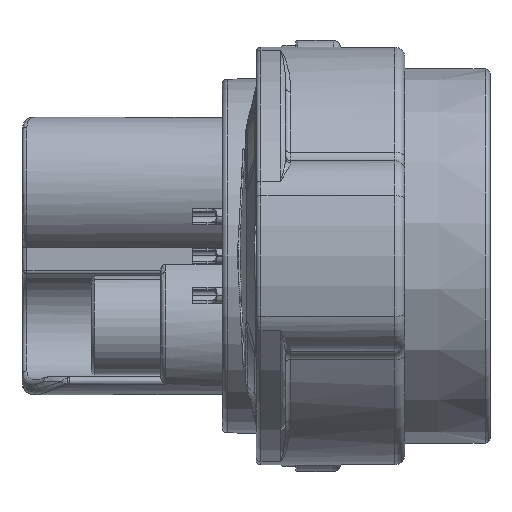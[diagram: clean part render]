
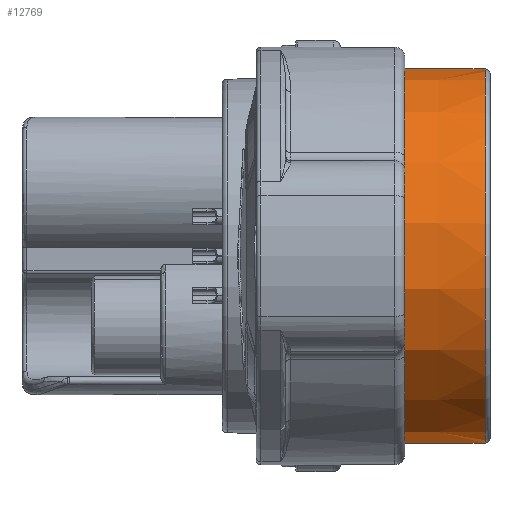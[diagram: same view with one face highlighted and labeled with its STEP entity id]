
A CAD part, front view. The second image highlights one B-rep face of the part: STEP entity #12769.
In plain terms, the highlighted conical face has half-angle 0.3 degrees and reference radius 18.95 mm.
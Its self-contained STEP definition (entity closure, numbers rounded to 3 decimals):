
#263 = CARTESIAN_POINT ( 'NONE',  ( 9.381, -14.36, 12.361 ) ) ;
#1081 = CARTESIAN_POINT ( 'NONE',  ( 8.884, 0., -18.95 ) ) ;
#1488 = DIRECTION ( 'NONE',  ( -1., 0., 0. ) ) ;
#2219 = EDGE_CURVE ( 'NONE', #82083, #66448, #11611, .T. ) ;
#2372 = CIRCLE ( 'NONE', #32395, 18.947 ) ;
#3281 = AXIS2_PLACEMENT_3D ( 'NONE', #55806, #1488, #75412 ) ;
#3339 = CIRCLE ( 'NONE', #46160, 18.947 ) ;
#3413 = EDGE_CURVE ( 'NONE', #57986, #73573, #53840, .T. ) ;
#3592 = FACE_OUTER_BOUND ( 'NONE', #73208, .T. ) ;
#6202 = DIRECTION ( 'NONE',  ( -1., 0., 0.005 ) ) ;
#8143 = ORIENTED_EDGE ( 'NONE', *, *, #63873, .F. ) ;
#9823 = CARTESIAN_POINT ( 'NONE',  ( 9.296, -13.061, -13.729 ) ) ;
#11193 = DIRECTION ( 'NONE',  ( 1., 0., 0. ) ) ;
#11611 = CIRCLE ( 'NONE', #75667, 18.947 ) ;
#11613 = CARTESIAN_POINT ( 'NONE',  ( 9.381, 0., 0. ) ) ;
#12539 = VERTEX_POINT ( 'NONE', #67793 ) ;
#12769 = ADVANCED_FACE ( 'NONE', ( #3592 ), #65892, .T. ) ;
#13059 = ORIENTED_EDGE ( 'NONE', *, *, #2219, .T. ) ;
#15039 = CARTESIAN_POINT ( 'NONE',  ( 9.381, -14.36, 12.361 ) ) ;
#16924 = CARTESIAN_POINT ( 'NONE',  ( 8.884, 0., 0. ) ) ;
#19533 = CARTESIAN_POINT ( 'NONE',  ( 8.884, 0., 18.95 ) ) ;
#20096 = VERTEX_POINT ( 'NONE', #51067 ) ;
#20896 = ORIENTED_EDGE ( 'NONE', *, *, #75475, .T. ) ;
#22682 = B_SPLINE_CURVE_WITH_KNOTS ( 'NONE', 3,
 ( #57469, #84643, #50781, #64615, #70418, #36069, #9823, #49472, #29400, #77989 ),
 .UNSPECIFIED., .F., .F.,
 ( 4, 2, 2, 2, 4 ),
 ( 0., 0.001, 0.001, 0.002, 0.003 ),
 .UNSPECIFIED. ) ;
#27712 = EDGE_CURVE ( 'NONE', #20096, #82083, #81374, .T. ) ;
#28222 = CARTESIAN_POINT ( 'NONE',  ( 9.381, 0., 0. ) ) ;
#29400 = CARTESIAN_POINT ( 'NONE',  ( 9.381, -12.54, -14.206 ) ) ;
#29705 = CARTESIAN_POINT ( 'NONE',  ( 9.271, -13.565, 13.231 ) ) ;
#32395 = AXIS2_PLACEMENT_3D ( 'NONE', #28222, #68787, #34877 ) ;
#34877 = DIRECTION ( 'NONE',  ( 0., 0., 1. ) ) ;
#36069 = CARTESIAN_POINT ( 'NONE',  ( 9.271, -13.231, -13.565 ) ) ;
#36376 = CARTESIAN_POINT ( 'NONE',  ( 9.296, -13.062, 13.728 ) ) ;
#37005 = DIRECTION ( 'NONE',  ( 0., 0., 1. ) ) ;
#38627 = DIRECTION ( 'NONE',  ( 1., 0., 0. ) ) ;
#40194 = VECTOR ( 'NONE', #6202, 1000. ) ;
#40607 = ORIENTED_EDGE ( 'NONE', *, *, #65196, .T. ) ;
#41740 = CARTESIAN_POINT ( 'NONE',  ( 9.352, -12.716, 14.049 ) ) ;
#43056 = AXIS2_PLACEMENT_3D ( 'NONE', #16924, #57915, #44069 ) ;
#44069 = DIRECTION ( 'NONE',  ( 0., 0., -1. ) ) ;
#46160 = AXIS2_PLACEMENT_3D ( 'NONE', #72514, #38627, #85873 ) ;
#46567 = CARTESIAN_POINT ( 'NONE',  ( 9.381, 0., -18.947 ) ) ;
#48726 = ORIENTED_EDGE ( 'NONE', *, *, #55441, .T. ) ;
#49472 = CARTESIAN_POINT ( 'NONE',  ( 9.352, -12.716, -14.049 ) ) ;
#50781 = CARTESIAN_POINT ( 'NONE',  ( 9.352, -14.049, -12.716 ) ) ;
#51067 = CARTESIAN_POINT ( 'NONE',  ( 9.381, -12.361, 14.36 ) ) ;
#52093 = VERTEX_POINT ( 'NONE', #46567 ) ;
#53840 = LINE ( 'NONE', #19533, #40194 ) ;
#54534 = CIRCLE ( 'NONE', #3281, 18.874 ) ;
#54959 = DIRECTION ( 'NONE',  ( -1., 0., -0.005 ) ) ;
#55441 = EDGE_CURVE ( 'NONE', #76717, #57986, #54534, .T. ) ;
#55806 = CARTESIAN_POINT ( 'NONE',  ( 23.487, 0., 0. ) ) ;
#56012 = CARTESIAN_POINT ( 'NONE',  ( 9.381, 0., 18.947 ) ) ;
#56479 = CARTESIAN_POINT ( 'NONE',  ( 9.271, -13.232, 13.564 ) ) ;
#57469 = CARTESIAN_POINT ( 'NONE',  ( 9.381, -14.36, -12.361 ) ) ;
#57915 = DIRECTION ( 'NONE',  ( -1., 0., 0. ) ) ;
#57986 = VERTEX_POINT ( 'NONE', #61090 ) ;
#61090 = CARTESIAN_POINT ( 'NONE',  ( 23.487, 0., 18.874 ) ) ;
#63873 = EDGE_CURVE ( 'NONE', #76717, #52093, #75875, .T. ) ;
#64615 = CARTESIAN_POINT ( 'NONE',  ( 9.296, -13.728, -13.062 ) ) ;
#65196 = EDGE_CURVE ( 'NONE', #66448, #12539, #22682, .T. ) ;
#65892 = CONICAL_SURFACE ( 'NONE', #43056, 18.95, 0.005 ) ;
#66448 = VERTEX_POINT ( 'NONE', #83195 ) ;
#67793 = CARTESIAN_POINT ( 'NONE',  ( 9.381, -12.361, -14.36 ) ) ;
#68787 = DIRECTION ( 'NONE',  ( 1., 0., 0. ) ) ;
#69418 = CARTESIAN_POINT ( 'NONE',  ( 9.352, -14.049, 12.716 ) ) ;
#69706 = ORIENTED_EDGE ( 'NONE', *, *, #3413, .T. ) ;
#69845 = CARTESIAN_POINT ( 'NONE',  ( 9.381, -12.361, 14.36 ) ) ;
#70418 = CARTESIAN_POINT ( 'NONE',  ( 9.271, -13.564, -13.232 ) ) ;
#70720 = CARTESIAN_POINT ( 'NONE',  ( 9.296, -13.729, 13.061 ) ) ;
#72514 = CARTESIAN_POINT ( 'NONE',  ( 9.381, 0., 0. ) ) ;
#73068 = CARTESIAN_POINT ( 'NONE',  ( 23.487, 0., -18.874 ) ) ;
#73208 = EDGE_LOOP ( 'NONE', ( #48726, #69706, #20896, #81380, #13059, #40607, #76664, #8143 ) ) ;
#73573 = VERTEX_POINT ( 'NONE', #56012 ) ;
#75412 = DIRECTION ( 'NONE',  ( 0., 0., -1. ) ) ;
#75475 = EDGE_CURVE ( 'NONE', #73573, #20096, #3339, .T. ) ;
#75667 = AXIS2_PLACEMENT_3D ( 'NONE', #11613, #11193, #37005 ) ;
#75875 = LINE ( 'NONE', #1081, #84347 ) ;
#76664 = ORIENTED_EDGE ( 'NONE', *, *, #79964, .T. ) ;
#76717 = VERTEX_POINT ( 'NONE', #73068 ) ;
#77392 = CARTESIAN_POINT ( 'NONE',  ( 9.381, -14.206, 12.54 ) ) ;
#77989 = CARTESIAN_POINT ( 'NONE',  ( 9.381, -12.361, -14.36 ) ) ;
#79964 = EDGE_CURVE ( 'NONE', #12539, #52093, #2372, .T. ) ;
#81374 = B_SPLINE_CURVE_WITH_KNOTS ( 'NONE', 3,
 ( #69845, #82757, #41740, #36376, #56479, #29705, #70720, #69418, #77392, #15039 ),
 .UNSPECIFIED., .F., .F.,
 ( 4, 2, 2, 2, 4 ),
 ( 0., 0.001, 0.001, 0.002, 0.003 ),
 .UNSPECIFIED. ) ;
#81380 = ORIENTED_EDGE ( 'NONE', *, *, #27712, .T. ) ;
#82083 = VERTEX_POINT ( 'NONE', #263 ) ;
#82757 = CARTESIAN_POINT ( 'NONE',  ( 9.381, -12.54, 14.206 ) ) ;
#83195 = CARTESIAN_POINT ( 'NONE',  ( 9.381, -14.36, -12.361 ) ) ;
#84347 = VECTOR ( 'NONE', #54959, 1000. ) ;
#84643 = CARTESIAN_POINT ( 'NONE',  ( 9.381, -14.206, -12.54 ) ) ;
#85873 = DIRECTION ( 'NONE',  ( 0., 0., 1. ) ) ;
